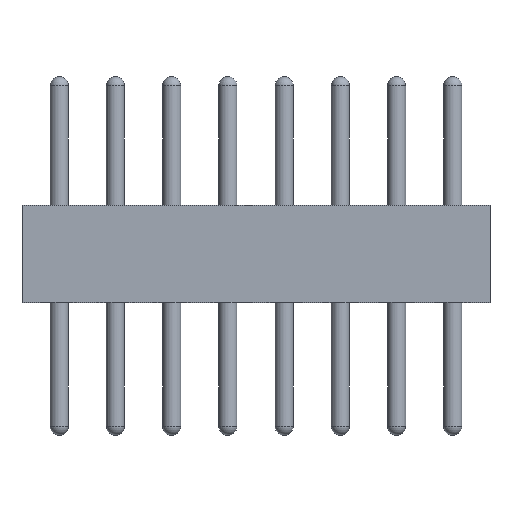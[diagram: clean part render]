
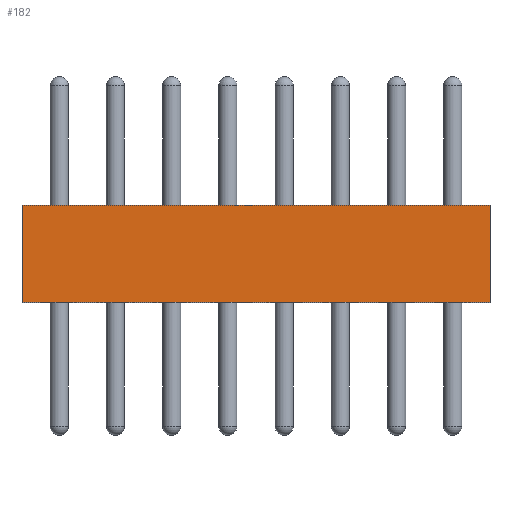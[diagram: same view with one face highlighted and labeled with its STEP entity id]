
A CAD part, top view. The second image highlights one B-rep face of the part: STEP entity #182.
In plain terms, the highlighted planar face has unit normal (0, 0, 1).
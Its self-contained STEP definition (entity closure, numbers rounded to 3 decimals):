
#28=LINE('',#1673,#52);
#36=LINE('',#1694,#60);
#44=LINE('',#1738,#68);
#45=LINE('',#1740,#69);
#52=VECTOR('',#1311,1.);
#60=VECTOR('',#1331,1.);
#68=VECTOR('',#1373,1.);
#69=VECTOR('',#1376,1.);
#122=FACE_OUTER_BOUND('',#482,.T.);
#148=PLANE('',#1141);
#182=ADVANCED_FACE('',(#122),#148,.T.);
#482=EDGE_LOOP('',(#677,#678,#679,#680));
#677=ORIENTED_EDGE('',*,*,#938,.F.);
#678=ORIENTED_EDGE('',*,*,#928,.T.);
#679=ORIENTED_EDGE('',*,*,#960,.T.);
#680=ORIENTED_EDGE('',*,*,#961,.F.);
#832=VERTEX_POINT('',#1672);
#833=VERTEX_POINT('',#1674);
#840=VERTEX_POINT('',#1695);
#858=VERTEX_POINT('',#1737);
#928=EDGE_CURVE('',#833,#832,#28,.T.);
#938=EDGE_CURVE('',#833,#840,#36,.T.);
#960=EDGE_CURVE('',#832,#858,#44,.T.);
#961=EDGE_CURVE('',#840,#858,#45,.T.);
#1141=AXIS2_PLACEMENT_3D('',#1741,#1377,#1378);
#1311=DIRECTION('',(0.,-1.,0.));
#1331=DIRECTION('',(1.,0.,0.));
#1373=DIRECTION('',(1.,0.,0.));
#1376=DIRECTION('',(0.,-1.,0.));
#1377=DIRECTION('',(0.,0.,1.));
#1378=DIRECTION('',(1.,0.,0.));
#1672=CARTESIAN_POINT('',(-0.205,0.,0.));
#1673=CARTESIAN_POINT('',(-0.205,0.,0.));
#1674=CARTESIAN_POINT('',(-0.205,2.2,0.));
#1694=CARTESIAN_POINT('',(0.635,2.2,0.));
#1695=CARTESIAN_POINT('',(10.365,2.2,0.));
#1737=CARTESIAN_POINT('',(10.365,0.,0.));
#1738=CARTESIAN_POINT('',(1.27,0.,0.));
#1740=CARTESIAN_POINT('',(10.365,0.,0.));
#1741=CARTESIAN_POINT('',(1.27,0.,0.));
